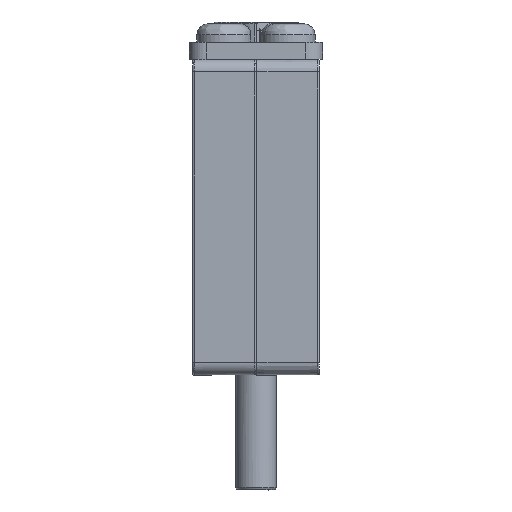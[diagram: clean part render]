
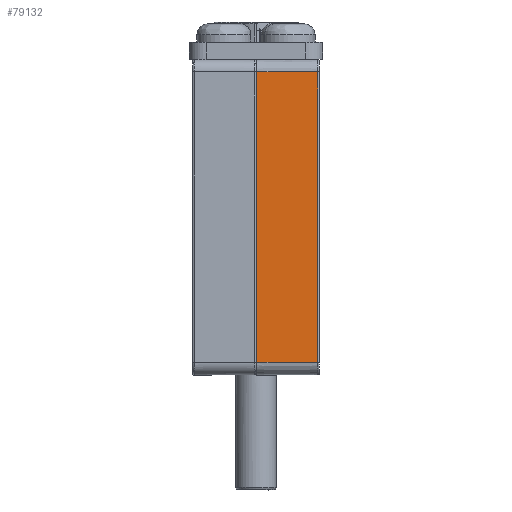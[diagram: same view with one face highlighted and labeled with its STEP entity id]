
A CAD part, left-side view. The second image highlights one B-rep face of the part: STEP entity #79132.
In plain terms, the highlighted planar face has unit normal (-1, -0.004, 0).
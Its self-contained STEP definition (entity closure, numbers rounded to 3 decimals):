
#1656 = VECTOR ( 'NONE', #175409, 1000. ) ;
#3063 = EDGE_LOOP ( 'NONE', ( #91517, #172898, #19114, #45432 ) ) ;
#7775 = PLANE ( 'NONE',  #158052 ) ;
#14039 = LINE ( 'NONE', #140193, #60839 ) ;
#16392 = CARTESIAN_POINT ( 'NONE',  ( -7.75, 0.09, -17.95 ) ) ;
#19114 = ORIENTED_EDGE ( 'NONE', *, *, #30205, .T. ) ;
#19477 = DIRECTION ( 'NONE',  ( 0., 0., 1. ) ) ;
#22719 = LINE ( 'NONE', #37871, #1656 ) ;
#27368 = VERTEX_POINT ( 'NONE', #93273 ) ;
#28171 = VECTOR ( 'NONE', #19477, 1000. ) ;
#30205 = EDGE_CURVE ( 'NONE', #27368, #93275, #95968, .T. ) ;
#34601 = CARTESIAN_POINT ( 'NONE',  ( -7.75, 0.09, 0. ) ) ;
#37318 = CARTESIAN_POINT ( 'NONE',  ( -7.75, 0., 0. ) ) ;
#37871 = CARTESIAN_POINT ( 'NONE',  ( -7.75, 0., -17.95 ) ) ;
#41891 = EDGE_CURVE ( 'NONE', #171384, #183934, #22719, .T. ) ;
#45432 = ORIENTED_EDGE ( 'NONE', *, *, #108554, .T. ) ;
#57886 = CARTESIAN_POINT ( 'NONE',  ( -7.75, 0., -0.75 ) ) ;
#58267 = CARTESIAN_POINT ( 'NONE',  ( -7.763, 3.7, -0.75 ) ) ;
#60839 = VECTOR ( 'NONE', #112690, 1000. ) ;
#71627 = DIRECTION ( 'NONE',  ( -0.003, 1., 0. ) ) ;
#74450 = CARTESIAN_POINT ( 'NONE',  ( -7.763, 3.7, -17.95 ) ) ;
#79132 = ADVANCED_FACE ( 'NONE', ( #134235 ), #7775, .T. ) ;
#81843 = EDGE_CURVE ( 'NONE', #183934, #27368, #180591, .T. ) ;
#91517 = ORIENTED_EDGE ( 'NONE', *, *, #41891, .T. ) ;
#93273 = CARTESIAN_POINT ( 'NONE',  ( -7.75, 0.09, -0.75 ) ) ;
#93275 = VERTEX_POINT ( 'NONE', #58267 ) ;
#95583 = DIRECTION ( 'NONE',  ( 0.003, -1., 0. ) ) ;
#95968 = LINE ( 'NONE', #57886, #170962 ) ;
#108554 = EDGE_CURVE ( 'NONE', #93275, #171384, #14039, .T. ) ;
#110604 = DIRECTION ( 'NONE',  ( -1., -0.003, 0. ) ) ;
#112690 = DIRECTION ( 'NONE',  ( 0., 0., -1. ) ) ;
#134235 = FACE_OUTER_BOUND ( 'NONE', #3063, .T. ) ;
#140193 = CARTESIAN_POINT ( 'NONE',  ( -7.763, 3.7, -17.95 ) ) ;
#158052 = AXIS2_PLACEMENT_3D ( 'NONE', #37318, #110604, #95583 ) ;
#170962 = VECTOR ( 'NONE', #71627, 1000. ) ;
#171384 = VERTEX_POINT ( 'NONE', #74450 ) ;
#172898 = ORIENTED_EDGE ( 'NONE', *, *, #81843, .T. ) ;
#175409 = DIRECTION ( 'NONE',  ( 0.003, -1., 0. ) ) ;
#180591 = LINE ( 'NONE', #34601, #28171 ) ;
#183934 = VERTEX_POINT ( 'NONE', #16392 ) ;
